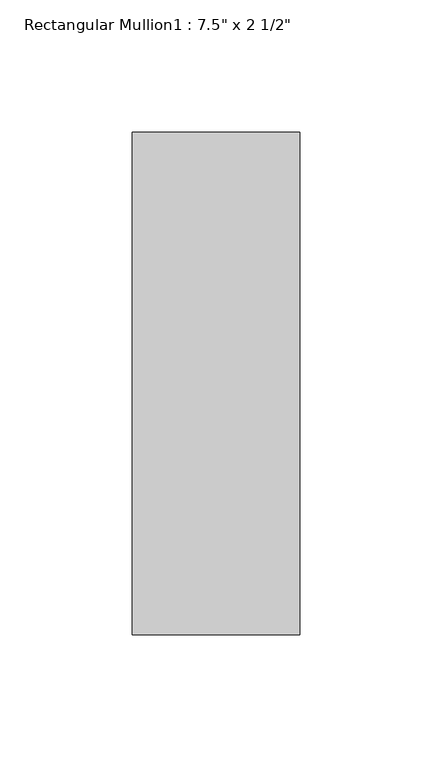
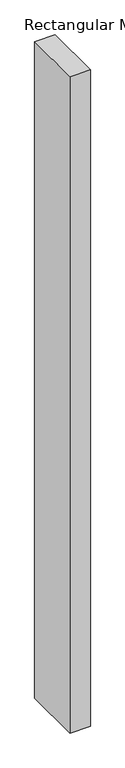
"""IFC4 building model written with IfcOpenShell, lengths in millimetres: member geometry."""

from ifc_helpers import new_model, si_unit, frame, origin, place, context, project, spatial, polyline, outline, extrude, source, transform, mapped, element, save


def member_02c333ee(model_context):
    return source(origin(), model_context, "Body", "SweptSolid", [
        extrude(outline(polyline([(31.75, 165.1), (31.75, -25.4), (-31.75, -25.4), (-31.75, 165.1), (31.75, 165.1)])), frame((0.0, 0.0, -2165.35), z_axis=(0.0, 0.0, 1.0), x_axis=(1.0, 0.0, 0.0)), (0.0, 0.0, 1.0), 2165.35),
    ])


if __name__ == "__main__":
    model = new_model("IFC4")
    model_context = context("Model", 3, world=origin())
    ifc_project = project(units=[si_unit("LENGTHUNIT", "METRE", prefix="MILLI")], contexts=[model_context])
    site = spatial("IfcSite", under=ifc_project)
    building = spatial("IfcBuilding", under=site)
    placement = place(None, origin())
    member_shape = member_02c333ee(model_context)
    element("IfcMember", 1, ObjectType="Rectangular Mullion1 : 7.5\" x 2 1/2\"", at=placement, inside=building, context=model_context, shape_type="MappedRepresentation", body=[
        mapped(member_shape, transform((0.0, 0.0, 0.0), x_axis=(1.0, 0.0, 0.0), y_axis=(0.0, 1.0, 0.0), z_axis=(0.0, 0.0, 1.0))),
    ])
    save(model, "model.ifc")
